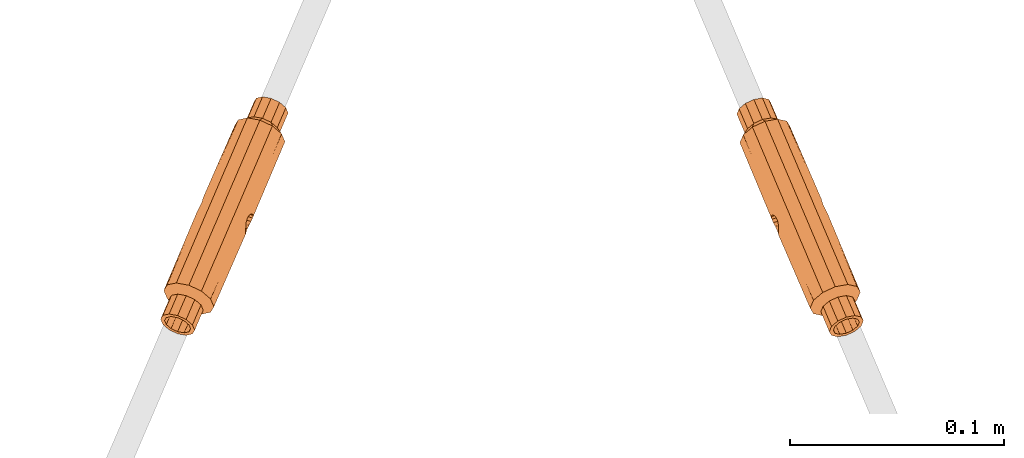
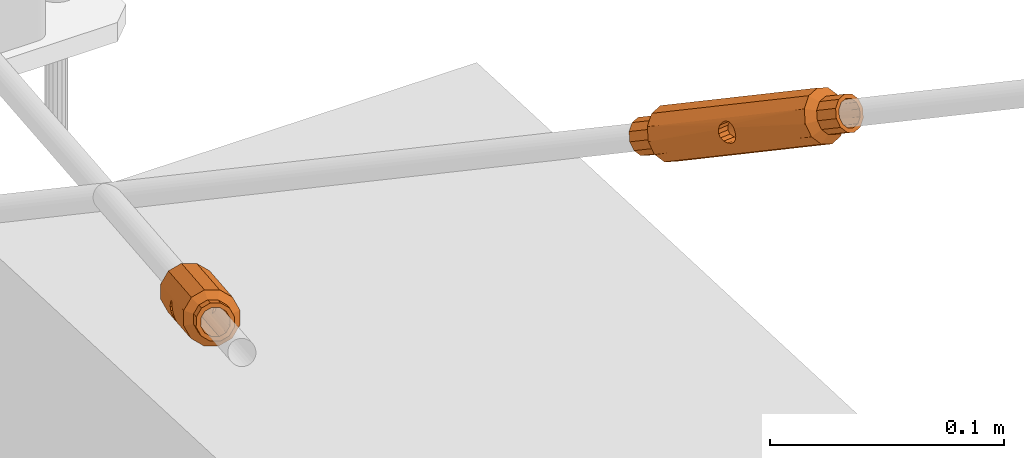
# One storey, part 283 of 288: 2 proxies.
"""IFC2X3 building model written with IfcOpenShell, lengths in millimetres."""

import ifcopenshell
import ifcopenshell.guid

model = None  # the IFC model being written
_history = None  # IfcOwnerHistory: only IFC2X3 demands one
_inside = {}  # id of a spatial element -> (the spatial element, [elements in it])
_under = {}  # id of a project, library or spatial element -> (it, [spatial elements below it])
_declared = {}  # id of a project -> (the project, [libraries it declares])
_typed = {}  # id of a type object -> (the type object, [elements of that type])
_made_of = {}  # id of a material, layer set ... -> (it, [elements and type objects made of it])


def new_model(schema):
    """Start an empty IFC model of exactly this schema.

    Asked for "IFC4X3", IfcOpenShell would pick the latest addendum, in which some entities
    have other attributes; the version numbers below select the first issue.
    IFC2X3 requires an IfcOwnerHistory on every rooted entity: one is made here for all.
    """
    global model, _history
    if schema == "IFC4X3":
        model = ifcopenshell.file(schema_version=(4, 3, 0, 0))
    else:
        model = ifcopenshell.file(schema=schema)
    _inside.clear()
    _under.clear()
    _declared.clear()
    _typed.clear()
    _made_of.clear()
    _history = None
    if model.schema == "IFC2X3":
        org = make("IfcOrganization", Name="unknown")
        user = make(
            "IfcPersonAndOrganization",
            ThePerson=make("IfcPerson", FamilyName="unknown"),
            TheOrganization=org,
        )
        app = make(
            "IfcApplication",
            ApplicationDeveloper=org,
            Version="unknown",
            ApplicationFullName="unknown",
            ApplicationIdentifier="unknown",
        )
        _history = make(
            "IfcOwnerHistory",
            OwningUser=user,
            OwningApplication=app,
            ChangeAction="ADDED",
            CreationDate=0,
        )
    return model


def make(cls, **values):
    """One entity of the class cls with the attributes given. An attribute that is None is left unset."""
    return model.create_entity(
        cls, **{name: value for name, value in values.items() if value is not None}
    )


def entity(cls, *values):
    """Any entity or typed value of the class cls, its attributes in the order of the schema. None: left unset."""
    e = model.create_entity(cls)
    for i, value in enumerate(values):
        if value is not None:
            e[i] = value
    return e


def rooted(cls, **values):
    """An entity with a GlobalId (a new one), such as an element, a storey or a relation."""
    return make(cls, GlobalId=ifcopenshell.guid.new(), OwnerHistory=_history, **values)


def si_unit(unit_type, name, prefix=None):
    """IfcSIUnit, for example si_unit("LENGTHUNIT", "METRE", prefix="MILLI")."""
    return make("IfcSIUnit", UnitType=unit_type, Prefix=prefix, Name=name)


def converted_unit(unit_type, name, factor, base, dimensions=None, offset=None):
    """IfcConversionBasedUnit, such as the inch: factor (a typed value) times the base unit."""
    return make(
        "IfcConversionBasedUnit"
        if offset is None
        else "IfcConversionBasedUnitWithOffset",
        ConversionOffset=offset,
        Dimensions=None
        if dimensions is None
        else entity("IfcDimensionalExponents", *dimensions),
        UnitType=unit_type,
        Name=name,
        ConversionFactor=make(
            "IfcMeasureWithUnit", ValueComponent=factor, UnitComponent=base
        ),
    )


def assignment(units):
    """IfcUnitAssignment: the units of a project."""
    return None if units is None else make("IfcUnitAssignment", Units=units)


def point(xyz):
    """IfcCartesianPoint."""
    return None if xyz is None else make("IfcCartesianPoint", Coordinates=xyz)


def direction(xyz):
    """IfcDirection."""
    return None if xyz is None else make("IfcDirection", DirectionRatios=xyz)


def frame(location, z_axis=None, x_axis=None):
    """IfcAxis2Placement3D, a coordinate frame: its origin and axes. An axis left out is left unset."""
    return make(
        "IfcAxis2Placement3D",
        Location=point(location),
        Axis=direction(z_axis),
        RefDirection=direction(x_axis),
    )


def origin_with_axes():
    """The frame at (0, 0, 0) with the z axis (0, 0, 1) and the x axis (1, 0, 0) written out."""
    return frame((0.0, 0.0, 0.0), z_axis=(0.0, 0.0, 1.0), x_axis=(1.0, 0.0, 0.0))


def place(relative_to, where):
    """IfcLocalPlacement: puts the frame where relative to a parent placement (None: the world)."""
    return make(
        "IfcLocalPlacement", PlacementRelTo=relative_to, RelativePlacement=where
    )


def context(
    kind, dimensions, precision=None, world=None, true_north=None, identifier=None
):
    """IfcGeometricRepresentationContext, for example the 3D "Model" context."""
    return make(
        "IfcGeometricRepresentationContext",
        ContextIdentifier=identifier,
        ContextType=kind,
        CoordinateSpaceDimension=dimensions,
        Precision=precision,
        WorldCoordinateSystem=world,
        TrueNorth=true_north,
    )


def project(units=None, contexts=None):
    """IfcProject with its units and contexts."""
    return rooted(
        "IfcProject",
        Name="project",
        RepresentationContexts=contexts,
        UnitsInContext=assignment(units),
    )


def spatial(cls, under=None, at=None, **own):
    """A site, building, storey or space (cls), placed at a placement, below another one or the project."""
    s = rooted(cls, ObjectPlacement=at, **own)
    if under is not None:
        _under.setdefault(under.id(), (under, []))[1].append(s)
    return s


def faces_of(points, faces, orient=None, outer=None):
    """IfcFace entities. A face is a list of loops; a loop is a list of indices into points, from 0.

    orient and outer hold one flag for each loop. By default every Orientation is true, the
    first loop of a face is its IfcFaceOuterBound and the others are IfcFaceBound.
    """
    made = []
    for i, loops in enumerate(faces):
        bounds = []
        for j, loop in enumerate(loops):
            is_outer = j == 0 if outer is None else outer[i][j]
            bounds.append(
                make(
                    "IfcFaceOuterBound" if is_outer else "IfcFaceBound",
                    Bound=make("IfcPolyLoop", Polygon=[points[k] for k in loop]),
                    Orientation=True if orient is None else orient[i][j],
                )
            )
        made.append(make("IfcFace", Bounds=bounds))
    return made


def faceted_brep(points, faces, orient=None, outer=None, voids=None):
    """IfcFacetedBrep: a solid bounded by flat faces; with voids (closed shells), ...WithVoids."""
    shared = [point(p) for p in points]
    hull = make("IfcClosedShell", CfsFaces=faces_of(shared, faces, orient, outer))
    if voids is None:
        return make("IfcFacetedBrep", Outer=hull)
    return make(
        "IfcFacetedBrepWithVoids",
        Outer=hull,
        Voids=[
            make(cls, CfsFaces=faces_of(shared, fs, o, b)) for cls, fs, o, b in voids
        ],
    )


def shape(context_of_items, identifier, shape_type, items):
    """IfcShapeRepresentation: the items that make up one representation, for example the "Body"."""
    return make(
        "IfcShapeRepresentation",
        ContextOfItems=context_of_items,
        RepresentationIdentifier=identifier,
        RepresentationType=shape_type,
        Items=items,
    )


def material(Name=None, Category=None):
    """IfcMaterial."""
    return make("IfcMaterial", Name=Name, Category=Category)


def made_of(thing, what):
    """Note that an element or type object is made of a material, layer set ...; save() writes the relation."""
    if what is not None:
        _made_of.setdefault(what.id(), (what, []))[1].append(thing)
    return thing


def element(
    cls,
    number,
    at=None,
    inside=None,
    cuts=None,
    type_object=None,
    material=None,
    context=None,
    identifier="Body",
    shape_type=None,
    held_by="IfcProductDefinitionShape",
    body=None,
    shapes=None,
    **own,
):
    """One element of the class cls, such as IfcWall. Its Tag is "e" and its number.

    at: its placement. inside: the storey or other place that contains it. cuts: it is an
    opening in that element (IfcRelVoidsElement). A single representation is given by context,
    identifier, shape_type and body (its items); several are given by shapes. held_by: the class
    of the entity that holds the representations. save() writes the other relations.
    """
    e = rooted(cls, Tag="e%d" % number, ObjectPlacement=at, **own)
    if body is not None:
        shapes = [shape(context, identifier, shape_type, body)]
    if shapes is not None:
        e.Representation = make(held_by, Representations=shapes)
    if inside is not None:
        _inside.setdefault(inside.id(), (inside, []))[1].append(e)
    if cuts is not None:
        rooted(
            "IfcRelVoidsElement", RelatingBuildingElement=cuts, RelatedOpeningElement=e
        )
    if type_object is not None:
        _typed.setdefault(type_object.id(), (type_object, []))[1].append(e)
    return made_of(e, material)


def aggregate(whole, parts):
    """IfcRelAggregates: a whole, such as a stair, and the parts it consists of."""
    return rooted("IfcRelAggregates", RelatingObject=whole, RelatedObjects=parts)


def save(model, path):
    """Write the relations noted so far, then the file.

    IfcRelAggregates (storeys below a building ...), IfcRelContainedInSpatialStructure (elements
    in a storey), IfcRelDefinesByType, IfcRelAssociatesMaterial and IfcRelDeclares: one each for
    every whole, place, type object, material and project.
    """
    for whole, parts in _under.values():
        aggregate(whole, parts)
    for where, things in _inside.values():
        rooted(
            "IfcRelContainedInSpatialStructure",
            RelatedElements=things,
            RelatingStructure=where,
        )
    for kind, things in _typed.values():
        rooted("IfcRelDefinesByType", RelatedObjects=things, RelatingType=kind)
    for what, things in _made_of.values():
        rooted("IfcRelAssociatesMaterial", RelatedObjects=things, RelatingMaterial=what)
    for by, libraries in _declared.values():
        rooted("IfcRelDeclares", RelatingContext=by, RelatedDefinitions=libraries)
    model.write(path)


model = new_model("IFC2X3")

# Units and contexts
model_context = context("Model", 3, precision=1e-09, world=origin_with_axes())
ifc_project = project(units=[si_unit("LENGTHUNIT", "METRE", prefix="MILLI"), si_unit("AREAUNIT", "SQUARE_METRE"), si_unit("VOLUMEUNIT", "CUBIC_METRE"), converted_unit("PLANEANGLEUNIT", "DEGREE", entity("IfcPlaneAngleMeasure", 0.01745329), si_unit("PLANEANGLEUNIT", "RADIAN"), dimensions=[0, 0, 0, 0, 0, 0, 0])], contexts=[model_context])

# Site, building, storey
site_placement = place(None, origin_with_axes())
site = spatial("IfcSite", under=ifc_project, at=site_placement, Name="Remont ?wietlik?w nad MC w NCPP w Opolu", CompositionType="ELEMENT")
building_placement = place(site_placement, origin_with_axes())
building = spatial("IfcBuilding", under=site, at=building_placement, Name="Konstrukcja 1", CompositionType="ELEMENT")
storey_placement = place(building_placement, origin_with_axes())
storey = spatial("IfcBuildingStorey", under=building, at=storey_placement, Name="Default Storey", CompositionType="ELEMENT", Elevation=0.0)

# Proxies
ifc_material = material(Name="Brak")
proxy_1_placement = place(None, origin_with_axes())
element("IfcBuildingElementProxy", 1, at=proxy_1_placement, inside=storey, material=ifc_material, ObjectType="Turnbuckle", context=model_context, shape_type="Brep", body=[
    faceted_brep([(10465.53117204, 561.378027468, 865.212758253), (10466.878172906, 561.872831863, 863.719152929), (10460.287790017, 564.008941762, 862.49000576), (10488.385961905, 615.148744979, 834.504920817), (10467.648383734, 568.969760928, 862.660896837), (10467.976881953, 567.063279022, 861.927204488), (10468.189085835, 564.006360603, 862.152181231), (10468.226538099, 565.00721639, 861.907766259), (10461.6297208, 567.128368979, 860.687263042), (10467.496724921, 562.396911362, 863.082295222), (10461.108409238, 565.328005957, 861.283619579), (10487.573558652, 617.037431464, 837.168324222), (10464.443051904, 561.518706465, 866.966922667), (10459.377253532, 563.353364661, 864.115405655), (10464.013582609, 562.270351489, 868.818671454), (10458.662776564, 563.392412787, 865.955999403), (10444.75637664, 513.728226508, 893.11667495), (10450.070670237, 520.593348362, 884.425627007), (10449.401598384, 522.299032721, 879.415066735), (10455.256638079, 519.569173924, 879.049769), (10454.039610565, 518.742866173, 884.178003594), (10445.119187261, 525.972105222, 882.583118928), (10458.390932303, 564.087170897, 867.777052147), (10467.50394943, 570.383992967, 864.129731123), (10478.277672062, 603.051699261, 838.038185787), (10461.844382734, 569.088407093, 860.801077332), (10461.884341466, 570.881202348, 861.628166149), (10482.560083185, 599.37862676, 834.870133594), (10467.952231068, 563.116595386, 862.551465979), (10490.612815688, 613.238747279, 832.857533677), (10446.983230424, 511.818228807, 891.46928781), (10450.025596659, 509.398705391, 889.547281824), (10446.044169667, 511.255009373, 889.795684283), (10458.011110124, 518.027592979, 885.896626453), (10454.009590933, 508.68118188, 891.271311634), (10485.699341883, 617.643037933, 836.821117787), (10486.771296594, 619.423203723, 840.699423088), (10489.690350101, 620.036720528, 843.933932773), (10493.674344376, 619.319197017, 845.657962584), (10497.655771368, 617.462893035, 845.409560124), (10500.567810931, 614.965203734, 843.255284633), (10501.630184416, 612.495382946, 839.772372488), (10500.558229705, 610.715217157, 835.894067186), (10497.639176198, 610.101700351, 832.659557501), (10493.655181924, 610.819223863, 830.935527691), (10489.673754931, 612.675527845, 831.183930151), (10486.761715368, 615.173217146, 833.338205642), (10490.625506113, 618.867894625, 842.607535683), (10488.393288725, 618.398734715, 840.1340871), (10493.65743633, 611.819220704, 832.667578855), (10496.704020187, 611.270526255, 833.985954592), (10498.936237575, 611.739686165, 836.459403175), (10499.755967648, 613.100989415, 839.425166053), (10498.943564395, 614.9896759, 842.088569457), (10496.716710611, 616.899673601, 843.735956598), (10493.67208997, 618.319200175, 843.92591142), (10443.943973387, 515.616912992, 895.780078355), (10443.132130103, 513.752698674, 891.949959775), (10447.167763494, 523.083204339, 886.573146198), (10443.556873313, 529.604194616, 887.705048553), (10464.447513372, 563.497699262, 870.394650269), (10458.667114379, 565.316556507, 869.288725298), (10467.652845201, 570.948753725, 866.08862444), (10461.881299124, 572.200812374, 863.088111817), (10482.747793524, 605.842529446, 838.730487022), (10481.685420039, 608.312350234, 842.213399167), (10467.984924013, 570.630530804, 868.105886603), (10456.928644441, 509.294698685, 894.505821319), (10458.000599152, 511.074864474, 898.384126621), (10456.938225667, 513.544685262, 901.867038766), (10454.026186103, 516.042374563, 904.021314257), (10450.044759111, 517.898678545, 904.269716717), (10446.060764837, 518.616202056, 902.545686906), (10443.141711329, 518.002685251, 899.311177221), (10442.069756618, 516.222519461, 895.432871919), (10455.31397913, 513.569157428, 900.70032359), (10456.126382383, 511.680470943, 898.036920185), (10455.30665231, 510.319167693, 895.071157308), (10453.074434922, 509.850007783, 892.597708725), (10450.027851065, 510.398702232, 891.279332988), (10444.76370346, 516.978216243, 898.745841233), (10446.995920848, 517.447376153, 901.219289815), (10450.042504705, 516.898681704, 902.537665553), (10453.087125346, 515.479155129, 902.347710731), (10475.715017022, 558.087371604, 867.099357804), (10475.463005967, 559.098856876, 865.309528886), (10476.047095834, 557.769148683, 869.116619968), (10461.115453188, 518.51399229, 881.585106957), (10488.41512288, 596.648767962, 834.504835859), (10485.659833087, 603.344840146, 836.576211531), (10460.921008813, 518.639185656, 889.120991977), (10459.385227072, 566.8902232, 870.241444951), (10465.5392141, 564.94527925, 871.391440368), (10461.888679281, 572.805346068, 864.960892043), (10476.715358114, 606.683788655, 843.160115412), (10461.852356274, 572.625265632, 866.927116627), (10468.236935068, 569.619045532, 869.895715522), (10461.640126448, 571.744048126, 868.68188073), (10468.200133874, 568.906987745, 870.640344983), (10466.888569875, 566.484661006, 871.707102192), (10460.298195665, 568.624620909, 870.484623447), (10482.059814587, 556.973854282, 866.523363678), (10481.84758476, 556.092636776, 868.27812778), (10476.195991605, 558.333909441, 871.075513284), (10481.811261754, 555.91255634, 870.244352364), (10475.499807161, 559.810914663, 864.564899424), (10446.108721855, 525.545279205, 890.045135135), (10467.963503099, 568.116579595, 871.211721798), (10461.119681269, 570.327990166, 869.943875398), (10467.50777296, 567.297538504, 871.570458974), (10482.75737475, 610.092516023, 846.091704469), (10461.98960163, 520.413768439, 892.987134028), (10476.051557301, 559.74814148, 872.54434757), (10481.818641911, 556.517090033, 872.117132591), (10482.580259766, 558.389912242, 865.261369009), (10465.408178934, 519.416222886, 886.341738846), (10494.273937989, 595.593586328, 837.040173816), (10489.641260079, 601.488536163, 836.327809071), (10475.736437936, 560.601322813, 863.99352261), (10445.133277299, 532.222085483, 893.408438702), (10478.291762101, 609.301679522, 848.863505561), (10466.984582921, 522.034113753, 892.045128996), (10481.815599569, 557.83670006, 873.577078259), (10476.192168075, 561.420363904, 863.634785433), (10447.177314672, 527.319861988, 893.911277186), (10485.676428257, 610.706032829, 849.326214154), (10475.473402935, 563.710686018, 873.297478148), (10475.723059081, 561.654623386, 873.278039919), (10460.93055999, 522.875843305, 896.459122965), (10481.855558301, 559.629495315, 874.404167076), (10483.401745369, 560.093281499, 864.72062096), (10498.566663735, 596.495816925, 841.796805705), (10493.625254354, 600.771012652, 838.051838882), (10476.81137116, 562.233241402, 863.498142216), (10478.160726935, 563.772623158, 863.81380404), (10484.314713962, 561.827679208, 864.963799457), (10479.252427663, 565.220203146, 864.810594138), (10485.032826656, 563.401345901, 865.91651911), (10479.686358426, 566.447550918, 866.386572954), (10475.510855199, 564.711541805, 873.053063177), (10475.747709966, 565.601307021, 872.653778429), (10482.070220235, 561.589533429, 874.517981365), (10476.203216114, 566.320991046, 872.122949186), (10485.309008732, 564.630731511, 867.42819226), (10450.087213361, 527.931454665, 897.13564271), (10449.426003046, 533.124316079, 898.165070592), (10482.584487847, 610.203910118, 853.620137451), (10479.25688913, 567.199195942, 868.238321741), (10478.168768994, 567.33987494, 869.992486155), (10489.660422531, 609.988509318, 851.050243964), (10476.821768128, 566.845070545, 871.486091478), (10482.591531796, 563.389896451, 873.921624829), (10483.412151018, 564.708960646, 872.715238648), (10454.05871292, 527.216181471, 898.85426557), (10458.027653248, 525.365699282, 898.606642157), (10465.422268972, 525.666203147, 897.16705862), (10484.322687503, 565.364537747, 871.089838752), (10485.037164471, 565.325489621, 869.249245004), (10500.143067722, 599.113707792, 847.500195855), (10496.544307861, 601.384529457, 841.286348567), (10455.284818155, 532.069134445, 900.700408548), (10488.443302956, 609.148728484, 856.155475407), (10493.641849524, 608.132205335, 850.801841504), (10498.580753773, 602.745797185, 852.62212548), (10461.13985785, 529.339275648, 900.335110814), (10497.616262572, 603.164695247, 845.164653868), (10494.298342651, 606.418869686, 855.790177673), (10496.553889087, 605.634516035, 848.647566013)], [[[0, 1, 2]], [[3, 4, 5]], [[6, 7, 8]], [[9, 10, 2]], [[1, 9, 2]], [[3, 5, 7]], [[3, 11, 4]], [[12, 0, 13]], [[14, 12, 15]], [[16, 1, 0]], [[17, 18, 19, 20]], [[12, 13, 15]], [[0, 2, 13]], [[21, 2, 10]], [[14, 15, 22]], [[11, 23, 4]], [[7, 5, 8]], [[6, 8, 10]], [[24, 21, 10]], [[5, 4, 25]], [[4, 23, 26]], [[21, 24, 27, 18]], [[28, 6, 10]], [[29, 7, 6]], [[9, 28, 10]], [[30, 9, 1]], [[20, 31, 32, 17]], [[33, 34, 31, 20]], [[29, 3, 7]], [[35, 36, 37, 38, 39, 40, 41, 42, 43, 44, 45, 46], [47, 48, 11, 3, 29, 49, 50, 51, 52, 53, 54, 55]], [[16, 0, 12]], [[56, 12, 14]], [[16, 30, 1]], [[17, 32, 57, 58]], [[18, 17, 58, 21]], [[59, 15, 13]], [[21, 13, 2]], [[60, 14, 61]], [[14, 22, 61]], [[59, 22, 15]], [[11, 62, 23]], [[23, 63, 26]], [[5, 25, 8]], [[24, 10, 8]], [[4, 26, 25]], [[46, 64, 65, 35]], [[48, 66, 62]], [[11, 48, 62]], [[67, 68, 69, 70, 71, 72, 73, 74, 57, 32, 31, 34], [75, 76, 77, 78, 79, 30, 16, 56, 80, 81, 82, 83]], [[77, 84, 85]], [[77, 86, 84]], [[77, 76, 86]], [[20, 19, 87, 33]], [[18, 27, 88, 19]], [[64, 46, 45, 89]], [[78, 77, 85]], [[29, 6, 28]], [[30, 28, 9]], [[34, 33, 90, 67]], [[56, 16, 12]], [[56, 14, 60]], [[21, 59, 13]], [[60, 61, 91]], [[59, 61, 22]], [[92, 60, 91]], [[23, 62, 93]], [[23, 93, 63]], [[94, 26, 63]], [[62, 66, 95]], [[66, 96, 97]], [[24, 8, 25]], [[94, 25, 26]], [[24, 64, 89, 27]], [[47, 98, 96]], [[48, 96, 66]], [[99, 92, 100]], [[80, 60, 92]], [[101, 85, 84]], [[102, 84, 86]], [[76, 103, 86]], [[104, 86, 103]], [[101, 105, 85]], [[78, 85, 105]], [[30, 29, 28]], [[80, 56, 60]], [[58, 57, 74, 106]], [[21, 58, 106, 59]], [[59, 91, 61]], [[96, 98, 97]], [[107, 108, 98]], [[107, 109, 108]], [[109, 99, 100]], [[92, 91, 100]], [[62, 95, 93]], [[94, 63, 93]], [[66, 97, 95]], [[94, 24, 25]], [[64, 24, 94, 65]], [[35, 65, 110, 36]], [[81, 109, 107]], [[47, 107, 98]], [[48, 47, 96]], [[80, 92, 99]], [[81, 99, 109]], [[67, 90, 111, 68]], [[102, 101, 84]], [[104, 102, 86]], [[76, 112, 103]], [[113, 104, 103]], [[101, 114, 105]], [[33, 87, 115, 90]], [[19, 88, 116, 87]], [[27, 89, 117, 88]], [[89, 45, 44, 117]], [[114, 118, 105]], [[78, 105, 118]], [[29, 30, 79, 49]], [[59, 119, 91]], [[98, 108, 97]], [[109, 100, 108]], [[119, 100, 91]], [[94, 93, 95]], [[120, 95, 97]], [[47, 81, 107]], [[81, 80, 99]], [[76, 75, 112]], [[115, 101, 102]], [[121, 102, 104]], [[122, 103, 112]], [[122, 113, 103]], [[121, 104, 113]], [[115, 114, 101]], [[114, 123, 118]], [[50, 78, 118]], [[78, 50, 49, 79]], [[106, 74, 73, 124]], [[59, 106, 124, 119]], [[120, 97, 108]], [[119, 108, 100]], [[120, 94, 95]], [[65, 94, 120, 110]], [[36, 110, 125, 37]], [[81, 47, 55, 82]], [[75, 83, 126]], [[75, 127, 112]], [[75, 126, 127]], [[68, 111, 128, 69]], [[90, 115, 121, 111]], [[121, 115, 102]], [[129, 122, 112]], [[121, 113, 122]], [[114, 130, 123]], [[115, 131, 114]], [[87, 116, 131, 115]], [[88, 117, 132, 116]], [[117, 44, 43, 132]], [[130, 133, 123]], [[50, 118, 123]], [[130, 134, 133]], [[135, 136, 134]], [[137, 138, 136]], [[119, 120, 108]], [[83, 139, 126]], [[83, 140, 139]], [[129, 112, 127]], [[127, 126, 141]], [[54, 142, 140]], [[121, 122, 129]], [[137, 143, 138]], [[135, 137, 136]], [[130, 135, 134]], [[131, 130, 114]], [[50, 123, 133]], [[51, 133, 134]], [[51, 134, 136]], [[52, 136, 138]], [[124, 73, 72, 144]], [[119, 124, 144, 145]], [[120, 119, 145, 146]], [[110, 120, 146, 125]], [[52, 138, 147]], [[53, 147, 148]], [[37, 125, 149, 38]], [[53, 148, 150]], [[54, 150, 142]], [[83, 54, 140]], [[82, 55, 54, 83]], [[126, 139, 141]], [[139, 140, 151]], [[127, 141, 129]], [[140, 142, 151]], [[152, 142, 150]], [[71, 153, 144, 72]], [[70, 154, 153, 71]], [[69, 128, 154, 70]], [[111, 121, 155, 128]], [[155, 121, 129]], [[152, 150, 148]], [[156, 148, 147]], [[157, 147, 138]], [[143, 157, 138]], [[158, 143, 137]], [[158, 137, 135]], [[131, 135, 130]], [[116, 132, 159, 131]], [[132, 43, 42, 159]], [[51, 50, 133]], [[52, 51, 136]], [[53, 52, 147]], [[54, 53, 150]], [[139, 151, 141]], [[155, 129, 141]], [[152, 151, 142]], [[156, 152, 148]], [[157, 156, 147]], [[158, 157, 143]], [[131, 158, 135]], [[145, 144, 153, 160]], [[146, 145, 160, 161]], [[125, 146, 161, 149]], [[38, 149, 162, 39]], [[155, 141, 151]], [[163, 151, 152]], [[154, 164, 160, 153]], [[128, 155, 164, 154]], [[163, 152, 156]], [[158, 156, 157]], [[131, 159, 165, 158]], [[159, 42, 41, 165]], [[163, 155, 151]], [[158, 163, 156]], [[161, 160, 164, 166]], [[149, 161, 166, 162]], [[40, 167, 165, 41]], [[39, 162, 167, 40]], [[155, 163, 166, 164]], [[158, 165, 167, 163]], [[162, 166, 163, 167]]]),
])
proxy_2_placement = place(None, origin_with_axes())
element("IfcBuildingElementProxy", 2, at=proxy_2_placement, inside=storey, material=ifc_material, ObjectType="Turnbuckle", context=model_context, shape_type="Brep", body=[
    faceted_brep([(10736.756645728, 557.497359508, 867.100233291), (10737.013238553, 558.507695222, 865.310406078), (10730.406883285, 556.412534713, 866.524196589), (10713.778399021, 611.254095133, 836.460123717), (10733.251529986, 564.646108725, 864.811446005), (10734.336682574, 563.193608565, 863.814663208), (10736.294589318, 560.832474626, 863.63565777), (10735.679068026, 561.648142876, 863.499010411), (10729.07907943, 559.537996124, 864.721444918), (10736.979661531, 559.21991208, 864.56577638), (10729.892853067, 557.830930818, 865.262198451), (10712.964811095, 612.619090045, 839.425881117), (10736.423118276, 557.180641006, 869.117493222), (10730.615115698, 555.53036687, 868.278962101), (10736.276763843, 557.746069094, 871.076385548), (10730.650611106, 555.350124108, 870.245186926), (10756.948681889, 509.637389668, 895.072168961), (10754.279158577, 517.357961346, 885.897620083), (10751.17707488, 517.858388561, 881.586079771), (10757.040617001, 518.887075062, 879.050781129), (10758.253862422, 518.055274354, 884.179023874), (10746.888439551, 518.78001494, 886.34268288), (10730.645951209, 555.954685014, 872.117967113), (10732.823141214, 565.875405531, 866.387421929), (10714.079024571, 596.008711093, 841.797528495), (10728.173958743, 561.276503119, 864.964617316), (10727.462960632, 562.85339992, 865.917332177), (10718.367659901, 595.087084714, 837.040925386), (10736.746609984, 560.011381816, 863.994397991), (10716.008489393, 610.774849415, 833.9866901), (10759.178772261, 509.158143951, 892.598735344), (10762.225559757, 508.69306409, 889.548328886), (10758.238351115, 507.993557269, 891.272331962), (10762.231125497, 519.887796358, 884.426673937), (10766.215335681, 510.531351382, 889.79675808), (10711.08787355, 612.021962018, 839.773074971), (10712.161377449, 614.486955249, 843.255994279), (10715.084663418, 616.971455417, 845.410289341), (10719.074439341, 618.809742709, 845.658718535), (10723.061647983, 619.50924953, 843.934715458), (10725.977920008, 618.882543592, 840.700225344), (10727.041842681, 617.097550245, 836.821927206), (10725.968338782, 614.632557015, 833.339007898), (10723.045052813, 612.148056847, 831.184712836), (10719.055276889, 610.309769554, 830.936283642), (10715.068068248, 609.610262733, 832.660286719), (10712.151796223, 610.236968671, 835.894776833), (10716.021179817, 616.403996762, 843.736692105), (10713.785725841, 614.504084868, 842.089289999), (10719.057531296, 611.309766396, 832.668334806), (10722.108536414, 612.715515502, 832.858310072), (10724.34399039, 614.615427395, 834.505712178), (10725.164905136, 616.500422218, 837.169121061), (10724.351317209, 617.865417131, 840.13487846), (10722.121226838, 618.344662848, 842.608312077), (10719.072184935, 617.809745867, 843.926667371), (10756.135093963, 511.002384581, 898.03792636), (10755.322079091, 508.620263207, 894.506822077), (10751.372032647, 517.982701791, 889.121966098), (10745.323847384, 521.405005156, 892.046062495), (10736.427579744, 559.159633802, 872.545220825), (10730.654948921, 557.274267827, 873.577912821), (10733.255991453, 566.625101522, 868.239173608), (10727.19232858, 564.084021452, 867.429003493), (10716.123462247, 600.888231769, 841.287084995), (10715.059539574, 602.673225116, 845.165383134), (10734.344724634, 566.760860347, 869.993345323), (10769.138621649, 513.01585155, 891.951053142), (10770.212125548, 515.480844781, 895.43397245), (10769.148202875, 517.265838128, 899.312270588), (10766.231930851, 517.892544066, 902.546760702), (10762.244722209, 517.193037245, 904.270763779), (10758.254946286, 515.354749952, 904.022334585), (10755.331660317, 512.870249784, 901.868039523), (10754.258156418, 510.405256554, 898.385120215), (10767.521600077, 516.248711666, 898.746923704), (10768.335188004, 514.883716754, 895.781166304), (10767.514273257, 512.998721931, 893.117757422), (10765.278819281, 511.098810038, 891.470355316), (10762.227814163, 509.693060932, 891.28038005), (10756.956008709, 512.887379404, 900.701335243), (10759.191462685, 514.787291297, 902.348737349), (10762.242467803, 516.193040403, 902.538712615), (10765.291509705, 516.727957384, 901.220357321), (10746.955274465, 560.741946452, 865.213702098), (10745.610534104, 561.242834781, 863.720087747), (10748.044007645, 560.877705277, 866.967873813), (10762.907934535, 521.590438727, 879.416118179), (10724.231202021, 596.115771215, 834.505626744), (10719.039734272, 600.261525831, 838.052594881), (10765.145243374, 522.364504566, 886.574212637), (10730.623089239, 559.067225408, 874.405001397), (10736.764687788, 561.064611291, 873.278915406), (10727.467298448, 564.77754364, 869.250058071), (10712.514432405, 598.633701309, 847.50090811), (10728.181932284, 564.813361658, 871.090656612), (10735.689464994, 566.259972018, 871.486959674), (10729.089485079, 564.153675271, 872.716062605), (10736.305637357, 565.733101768, 872.123821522), (10737.023635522, 563.119524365, 873.29835534), (10730.417288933, 561.02821386, 874.518814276), (10752.21051402, 563.349131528, 862.490984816), (10753.118066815, 562.689445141, 864.116390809), (10748.476857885, 561.627401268, 868.819625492), (10753.832700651, 562.725263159, 865.95698935), (10744.994361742, 561.769705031, 863.083225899), (10750.311446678, 519.762096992, 892.988101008), (10736.757882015, 565.011366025, 872.65465381), (10729.904125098, 562.830915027, 873.92245427), (10736.99070957, 564.120539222, 873.053940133), (10716.133043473, 605.138218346, 848.648302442), (10766.21538052, 524.821767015, 890.046208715), (10748.048469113, 562.856698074, 870.395601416), (10754.107670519, 563.418785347, 867.778043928), (10751.395874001, 564.671891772, 861.28459315), (10767.206884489, 525.244115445, 882.584199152), (10730.098519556, 598.81913488, 834.870963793), (10723.026942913, 600.961032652, 836.328591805), (10744.542117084, 562.491440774, 862.552393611), (10746.902529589, 525.029995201, 897.168002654), (10714.093114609, 602.258691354, 852.622848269), (10768.785566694, 528.86910549, 887.706139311), (10753.837038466, 564.649406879, 869.289715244), (10744.309289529, 563.382267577, 862.153107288), (10751.381583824, 522.219359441, 896.460097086), (10719.056329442, 607.622718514, 850.802597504), (10745.620931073, 565.854663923, 871.70803701), (10746.963316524, 564.309198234, 871.392384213), (10765.154794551, 526.601162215, 893.912343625), (10753.126040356, 566.22630368, 870.242430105), (10750.882710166, 566.474592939, 860.688233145), (10734.39746951, 602.472811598, 838.039044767), (10727.016718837, 602.799319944, 836.577020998), (10744.276363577, 564.383282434, 861.908692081), (10744.535311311, 566.438195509, 861.928132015), (10750.67690986, 568.435581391, 860.802046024), (10744.872419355, 568.343172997, 862.661826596), (10750.645050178, 570.228538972, 861.6291346), (10745.023235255, 569.756737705, 864.130661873), (10745.00540978, 566.670332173, 871.571389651), (10744.553389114, 567.491424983, 871.21264943), (10752.220919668, 567.964810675, 870.485602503), (10744.320337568, 568.282894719, 870.641271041), (10750.654047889, 571.548121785, 863.089080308), (10754.295701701, 524.696067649, 898.607635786), (10751.201479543, 528.683671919, 900.336083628), (10718.392064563, 605.912368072, 855.790929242), (10744.876880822, 570.322165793, 866.089554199), (10744.543353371, 570.005447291, 868.10681413), (10723.046105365, 609.461005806, 851.051026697), (10744.286760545, 568.995111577, 869.896641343), (10751.407146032, 569.671875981, 869.94484897), (10750.893115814, 571.090272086, 868.682850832), (10758.272964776, 526.528589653, 898.855285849), (10762.247668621, 527.22590266, 897.13668964), (10767.220974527, 531.494095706, 893.409518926), (10750.684883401, 571.972439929, 866.928085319), (10750.649387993, 572.152682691, 864.961860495), (10735.976151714, 606.097801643, 843.160984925), (10729.940004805, 605.283820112, 838.73131606), (10757.068797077, 531.387035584, 900.701420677), (10724.259382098, 608.615731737, 856.156266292), (10727.033314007, 610.160512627, 849.327023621), (10734.411559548, 608.722791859, 848.864364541), (10762.932339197, 532.415722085, 898.166122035), (10731.013508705, 607.748813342, 842.214235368), (10730.122924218, 609.644418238, 853.62096765), (10729.949586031, 609.533806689, 846.092533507)], [[[0, 1, 2]], [[3, 4, 5]], [[6, 7, 8]], [[9, 10, 2]], [[1, 9, 2]], [[3, 5, 7]], [[3, 11, 4]], [[12, 0, 13]], [[14, 12, 15]], [[16, 1, 0]], [[17, 18, 19, 20]], [[12, 13, 15]], [[0, 2, 13]], [[21, 2, 10]], [[14, 15, 22]], [[11, 23, 4]], [[7, 5, 8]], [[6, 8, 10]], [[24, 21, 10]], [[5, 4, 25]], [[4, 23, 26]], [[21, 24, 27, 18]], [[28, 6, 10]], [[29, 7, 6]], [[9, 28, 10]], [[30, 9, 1]], [[20, 31, 32, 17]], [[33, 34, 31, 20]], [[29, 3, 7]], [[35, 36, 37, 38, 39, 40, 41, 42, 43, 44, 45, 46], [47, 48, 11, 3, 29, 49, 50, 51, 52, 53, 54, 55]], [[16, 0, 12]], [[56, 12, 14]], [[16, 30, 1]], [[17, 32, 57, 58]], [[18, 17, 58, 21]], [[59, 15, 13]], [[21, 13, 2]], [[60, 14, 61]], [[14, 22, 61]], [[59, 22, 15]], [[11, 62, 23]], [[23, 63, 26]], [[5, 25, 8]], [[24, 10, 8]], [[4, 26, 25]], [[46, 64, 65, 35]], [[48, 66, 62]], [[11, 48, 62]], [[67, 68, 69, 70, 71, 72, 73, 74, 57, 32, 31, 34], [75, 76, 77, 78, 79, 30, 16, 56, 80, 81, 82, 83]], [[77, 84, 85]], [[77, 86, 84]], [[77, 76, 86]], [[20, 19, 87, 33]], [[18, 27, 88, 19]], [[64, 46, 45, 89]], [[78, 77, 85]], [[29, 6, 28]], [[30, 28, 9]], [[34, 33, 90, 67]], [[56, 16, 12]], [[56, 14, 60]], [[21, 59, 13]], [[60, 61, 91]], [[59, 61, 22]], [[92, 60, 91]], [[23, 62, 93]], [[23, 93, 63]], [[94, 26, 63]], [[62, 66, 95]], [[66, 96, 97]], [[24, 8, 25]], [[94, 25, 26]], [[24, 64, 89, 27]], [[47, 98, 96]], [[48, 96, 66]], [[99, 92, 100]], [[80, 60, 92]], [[101, 85, 84]], [[102, 84, 86]], [[76, 103, 86]], [[104, 86, 103]], [[101, 105, 85]], [[78, 85, 105]], [[30, 29, 28]], [[80, 56, 60]], [[58, 57, 74, 106]], [[21, 58, 106, 59]], [[59, 91, 61]], [[96, 98, 97]], [[107, 108, 98]], [[107, 109, 108]], [[109, 99, 100]], [[92, 91, 100]], [[62, 95, 93]], [[94, 63, 93]], [[66, 97, 95]], [[94, 24, 25]], [[64, 24, 94, 65]], [[35, 65, 110, 36]], [[81, 109, 107]], [[47, 107, 98]], [[48, 47, 96]], [[80, 92, 99]], [[81, 99, 109]], [[67, 90, 111, 68]], [[102, 101, 84]], [[104, 102, 86]], [[76, 112, 103]], [[113, 104, 103]], [[101, 114, 105]], [[33, 87, 115, 90]], [[19, 88, 116, 87]], [[27, 89, 117, 88]], [[89, 45, 44, 117]], [[114, 118, 105]], [[78, 105, 118]], [[29, 30, 79, 49]], [[59, 119, 91]], [[98, 108, 97]], [[109, 100, 108]], [[119, 100, 91]], [[94, 93, 95]], [[120, 95, 97]], [[47, 81, 107]], [[81, 80, 99]], [[76, 75, 112]], [[115, 101, 102]], [[121, 102, 104]], [[122, 103, 112]], [[122, 113, 103]], [[121, 104, 113]], [[115, 114, 101]], [[114, 123, 118]], [[50, 78, 118]], [[78, 50, 49, 79]], [[106, 74, 73, 124]], [[59, 106, 124, 119]], [[120, 97, 108]], [[119, 108, 100]], [[120, 94, 95]], [[65, 94, 120, 110]], [[36, 110, 125, 37]], [[81, 47, 55, 82]], [[75, 83, 126]], [[75, 127, 112]], [[75, 126, 127]], [[68, 111, 128, 69]], [[90, 115, 121, 111]], [[121, 115, 102]], [[129, 122, 112]], [[121, 113, 122]], [[114, 130, 123]], [[115, 131, 114]], [[87, 116, 131, 115]], [[88, 117, 132, 116]], [[117, 44, 43, 132]], [[130, 133, 123]], [[50, 118, 123]], [[130, 134, 133]], [[135, 136, 134]], [[137, 138, 136]], [[119, 120, 108]], [[83, 139, 126]], [[83, 140, 139]], [[129, 112, 127]], [[127, 126, 141]], [[54, 142, 140]], [[121, 122, 129]], [[137, 143, 138]], [[135, 137, 136]], [[130, 135, 134]], [[131, 130, 114]], [[50, 123, 133]], [[51, 133, 134]], [[51, 134, 136]], [[52, 136, 138]], [[124, 73, 72, 144]], [[119, 124, 144, 145]], [[120, 119, 145, 146]], [[110, 120, 146, 125]], [[52, 138, 147]], [[53, 147, 148]], [[37, 125, 149, 38]], [[53, 148, 150]], [[54, 150, 142]], [[83, 54, 140]], [[82, 55, 54, 83]], [[126, 139, 141]], [[139, 140, 151]], [[127, 141, 129]], [[140, 142, 151]], [[152, 142, 150]], [[71, 153, 144, 72]], [[70, 154, 153, 71]], [[69, 128, 154, 70]], [[111, 121, 155, 128]], [[155, 121, 129]], [[152, 150, 148]], [[156, 148, 147]], [[157, 147, 138]], [[143, 157, 138]], [[158, 143, 137]], [[158, 137, 135]], [[131, 135, 130]], [[116, 132, 159, 131]], [[132, 43, 42, 159]], [[51, 50, 133]], [[52, 51, 136]], [[53, 52, 147]], [[54, 53, 150]], [[139, 151, 141]], [[155, 129, 141]], [[152, 151, 142]], [[156, 152, 148]], [[157, 156, 147]], [[158, 157, 143]], [[131, 158, 135]], [[145, 144, 153, 160]], [[146, 145, 160, 161]], [[125, 146, 161, 149]], [[38, 149, 162, 39]], [[155, 141, 151]], [[163, 151, 152]], [[154, 164, 160, 153]], [[128, 155, 164, 154]], [[163, 152, 156]], [[158, 156, 157]], [[131, 159, 165, 158]], [[159, 42, 41, 165]], [[163, 155, 151]], [[158, 163, 156]], [[161, 160, 164, 166]], [[149, 161, 166, 162]], [[40, 167, 165, 41]], [[39, 162, 167, 40]], [[155, 163, 166, 164]], [[158, 165, 167, 163]], [[162, 166, 163, 167]]]),
])

save(model, "model.ifc")
